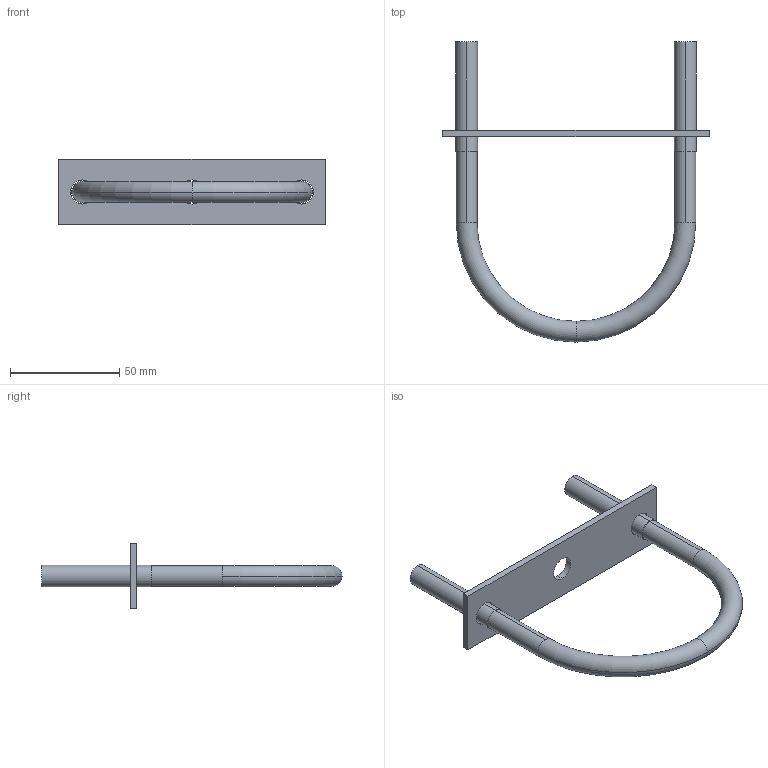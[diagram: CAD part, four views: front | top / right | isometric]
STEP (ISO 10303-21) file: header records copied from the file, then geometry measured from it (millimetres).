
FILE_DESCRIPTION((''),'2;1');
FILE_NAME('2014712200_ASM','2017-05-12T',('Administrator'),(''),'PRO/ENGINEER BY PARAMETRIC TECHNOLOGY CORPORATION, 2009360','PRO/ENGINEER BY PARAMETRIC TECHNOLOGY CORPORATION, 2009360','');
FILE_SCHEMA(('AUTOMOTIVE_DESIGN_CC2 { 1 2 10303 214 -1 1 5 2 }'));
Length unit declared in the file: millimetre
Products named in the file (3): MANIFOLD_SOLID_BREP_119; MANIFOLD_SOLID_BREP_120; 2014712200_ASM
Assembly tree (2 placements, depth 2):
  2014712200_ASM
    MANIFOLD_SOLID_BREP_119
    MANIFOLD_SOLID_BREP_120
Bounding box: 122 x 137.25 x 30 mm (x, y, z)
Volume: 33720.2 mm3; surface area: 17914.8 mm2
Topology: 2 solids, 2 shells, 28 faces, 76 edges, 54 vertices
Faces by surface type: cylinder 14, plane 10, torus 4
Entity records: 1255 total; most frequent: DIRECTION 192, CARTESIAN_POINT 163, ORIENTED_EDGE 152, AXIS2_PLACEMENT_3D 83, PRESENTATION_STYLE_ASSIGNMENT 78, STYLED_ITEM 78, CURVE_STYLE 76, EDGE_CURVE 76
